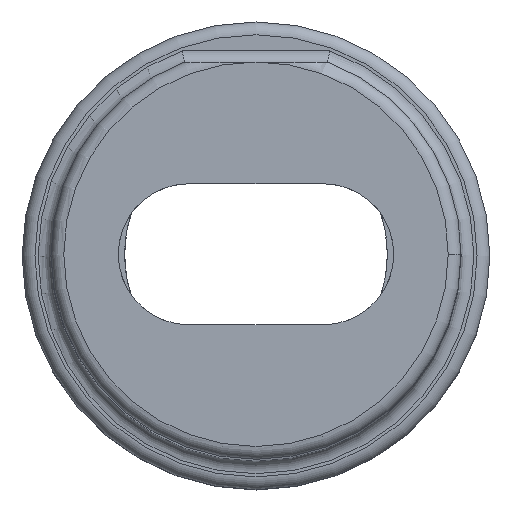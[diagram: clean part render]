
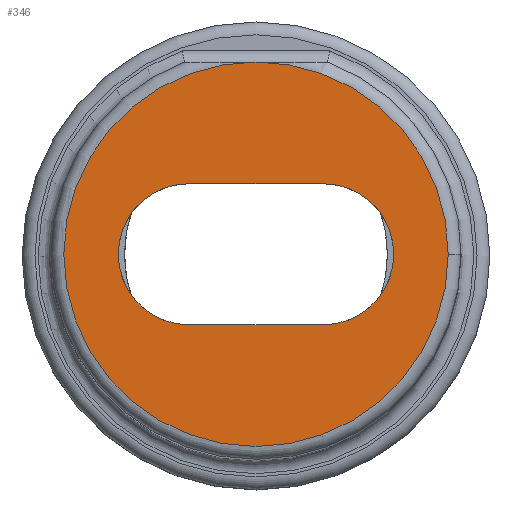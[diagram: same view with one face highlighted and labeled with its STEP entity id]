
A CAD part, top view. The second image highlights one B-rep face of the part: STEP entity #346.
In plain terms, the highlighted planar face has unit normal (0, 0, 1).
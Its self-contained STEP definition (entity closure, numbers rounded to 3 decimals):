
#22=FACE_BOUND('',#97,.T.);
#29=LINE('',#656,#44);
#30=LINE('',#660,#45);
#44=VECTOR('',#487,10.);
#45=VECTOR('',#490,10.);
#56=PLANE('',#404);
#73=FACE_OUTER_BOUND('',#96,.T.);
#96=EDGE_LOOP('',(#264,#265));
#97=EDGE_LOOP('',(#266,#267,#268,#269));
#117=CIRCLE('',#385,15.);
#127=CIRCLE('',#403,15.);
#128=CIRCLE('',#405,5.5);
#129=CIRCLE('',#406,5.5);
#146=VERTEX_POINT('',#558);
#148=VERTEX_POINT('',#562);
#159=VERTEX_POINT('',#654);
#160=VERTEX_POINT('',#655);
#161=VERTEX_POINT('',#657);
#162=VERTEX_POINT('',#659);
#178=EDGE_CURVE('',#148,#146,#117,.T.);
#196=EDGE_CURVE('',#146,#148,#127,.T.);
#197=EDGE_CURVE('',#159,#160,#29,.T.);
#198=EDGE_CURVE('',#161,#160,#128,.T.);
#199=EDGE_CURVE('',#161,#162,#30,.T.);
#200=EDGE_CURVE('',#159,#162,#129,.T.);
#264=ORIENTED_EDGE('',*,*,#178,.F.);
#265=ORIENTED_EDGE('',*,*,#196,.F.);
#266=ORIENTED_EDGE('',*,*,#197,.T.);
#267=ORIENTED_EDGE('',*,*,#198,.F.);
#268=ORIENTED_EDGE('',*,*,#199,.T.);
#269=ORIENTED_EDGE('',*,*,#200,.F.);
#346=ADVANCED_FACE('',(#73,#22),#56,.T.);
#385=AXIS2_PLACEMENT_3D('',#577,#442,#443);
#403=AXIS2_PLACEMENT_3D('',#652,#483,#484);
#404=AXIS2_PLACEMENT_3D('',#653,#485,#486);
#405=AXIS2_PLACEMENT_3D('',#658,#488,#489);
#406=AXIS2_PLACEMENT_3D('',#661,#491,#492);
#442=DIRECTION('center_axis',(0.,0.,-1.));
#443=DIRECTION('ref_axis',(-1.,0.,0.));
#483=DIRECTION('center_axis',(0.,0.,-1.));
#484=DIRECTION('ref_axis',(-1.,0.,0.));
#485=DIRECTION('center_axis',(0.,0.,1.));
#486=DIRECTION('ref_axis',(1.,0.,0.));
#487=DIRECTION('',(1.,0.,0.));
#488=DIRECTION('center_axis',(0.,0.,1.));
#489=DIRECTION('ref_axis',(0.707,-0.707,0.));
#490=DIRECTION('',(-1.,0.,0.));
#491=DIRECTION('center_axis',(0.,0.,1.));
#492=DIRECTION('ref_axis',(-0.707,0.707,0.));
#558=CARTESIAN_POINT('',(15.,0.,77.5));
#562=CARTESIAN_POINT('',(0.,15.,77.5));
#577=CARTESIAN_POINT('Origin',(0.,0.,77.5));
#652=CARTESIAN_POINT('Origin',(0.,0.,77.5));
#653=CARTESIAN_POINT('Origin',(16.,0.,77.5));
#654=CARTESIAN_POINT('',(-5.25,5.5,77.5));
#655=CARTESIAN_POINT('',(5.25,5.5,77.5));
#656=CARTESIAN_POINT('',(2.625,5.5,77.5));
#657=CARTESIAN_POINT('',(5.25,-5.5,77.5));
#658=CARTESIAN_POINT('Origin',(5.25,0.,77.5));
#659=CARTESIAN_POINT('',(-5.25,-5.5,77.5));
#660=CARTESIAN_POINT('',(13.375,-5.5,77.5));
#661=CARTESIAN_POINT('Origin',(-5.25,0.,77.5));
